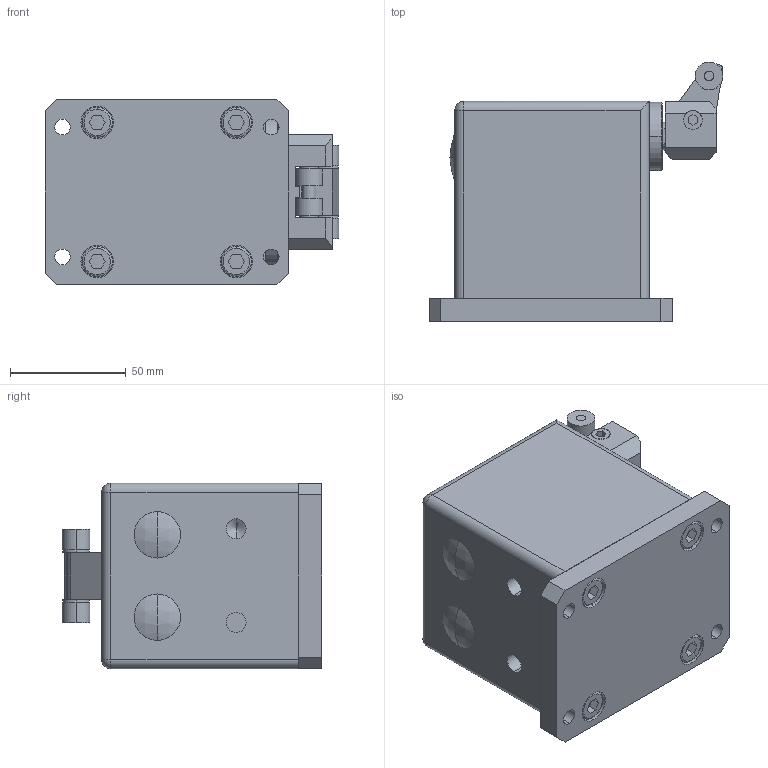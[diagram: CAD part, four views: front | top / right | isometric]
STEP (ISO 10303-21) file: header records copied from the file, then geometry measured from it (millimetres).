
FILE_DESCRIPTION (( 'STEP AP203' ), '1' );
FILE_NAME ('DBS150-DW-KI.STEP', '2008-09-05T09:19:58', ( '' ), ( '' ), 'SwSTEP 2.0', 'SolidWorks 2007', '' );
FILE_SCHEMA (( 'CONFIG_CONTROL_DESIGN' ));
Length unit declared in the file: millimetre
Products named in the file (1): DBS150-DW-KI
Bounding box: 126.76 x 112 x 80 mm (x, y, z)
Volume: 604285.5 mm3; surface area: 106475 mm2
Topology: 6 solids, 7 shells, 345 faces, 811 edges, 519 vertices
Faces by surface type: plane 176, cylinder 131, cone 18, torus 14, sphere 6
Entity records: 9909 total; most frequent: DIRECTION 1783, CARTESIAN_POINT 1669, ORIENTED_EDGE 1590, EDGE_CURVE 795, AXIS2_PLACEMENT_3D 645, VERTEX_POINT 519, VECTOR 493, LINE 493
